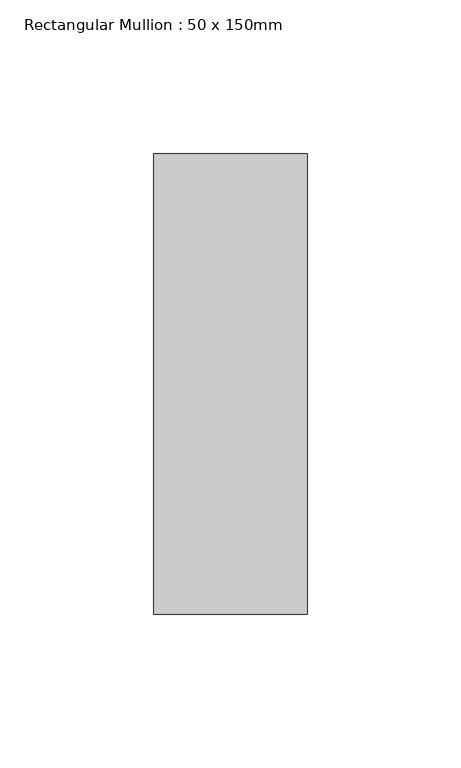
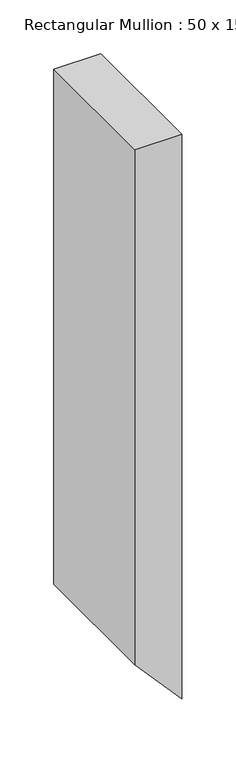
"""IFC4 building model written with IfcOpenShell, lengths in millimetres: member geometry, Rectangular Mullion : 50 x 150mm."""

from ifc_helpers import new_model, si_unit, frame, origin, place, context, project, spatial, polyline, outline, extrude, source, transform, mapped, element, save


def rectangular_mullion_50_x_150mm_aa97308b(model_context):
    return source(origin(), model_context, "Body", "SweptSolid", [
        extrude(outline(polyline([(0.0, 0.0), (0.0, -50.0), (-582.4813038, -50.0), (-638.4814106, 0.0), (0.0, 0.0)])), frame((0.0, -75.0, 0.0), z_axis=(0.0, 1.0, 0.0), x_axis=(0.0, 0.0, 1.0)), (0.0, 0.0, 1.0), 150.0),
    ])


if __name__ == "__main__":
    model = new_model("IFC4")
    model_context = context("Model", 3, world=origin())
    ifc_project = project(units=[si_unit("LENGTHUNIT", "METRE", prefix="MILLI")], contexts=[model_context])
    site = spatial("IfcSite", under=ifc_project)
    building = spatial("IfcBuilding", under=site)
    placement = place(None, origin())
    rectangular_mullion_50_x_150mm_shape = rectangular_mullion_50_x_150mm_aa97308b(model_context)
    element("IfcMember", 1, ObjectType="Rectangular Mullion : 50 x 150mm", at=placement, inside=building, context=model_context, shape_type="MappedRepresentation", body=[
        mapped(rectangular_mullion_50_x_150mm_shape, transform((0.0, 0.0, 0.0), x_axis=(1.0, 0.0, 0.0), y_axis=(0.0, 1.0, 0.0), z_axis=(0.0, 0.0, 1.0))),
    ])
    save(model, "model.ifc")
